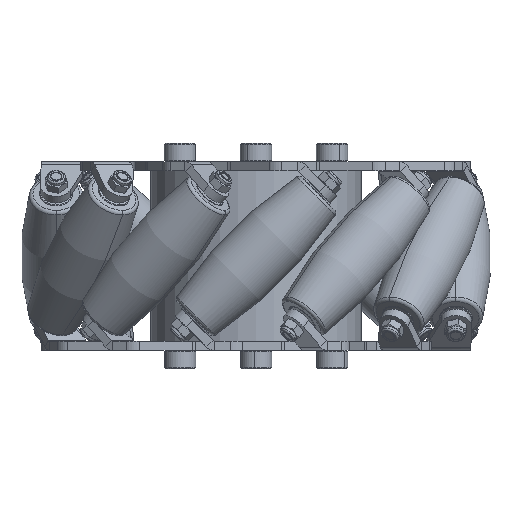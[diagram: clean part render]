
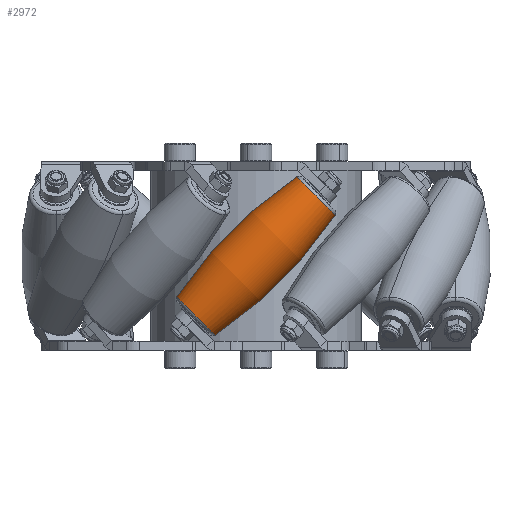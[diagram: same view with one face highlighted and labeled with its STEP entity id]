
A CAD part, left-side view. The second image highlights one B-rep face of the part: STEP entity #2972.
In plain terms, the highlighted toroidal (fillet/blend) face has major radius 110 mm and minor radius 119.5 mm.
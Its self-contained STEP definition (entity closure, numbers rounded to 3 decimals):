
#64 = DIRECTION ( 'NONE',  ( 0., 0., 1. ) ) ;
#653 = AXIS2_PLACEMENT_3D ( 'NONE', #6394, #6381, #6355 ) ;
#659 = CIRCLE ( 'NONE', #8284, 7.277 ) ;
#841 = EDGE_CURVE ( 'NONE', #10630, #1183, #9018, .T. ) ;
#1183 = VERTEX_POINT ( 'NONE', #2413 ) ;
#1528 = TOROIDAL_SURFACE ( 'NONE', #8598, -110., 119.5 ) ;
#1854 = AXIS2_PLACEMENT_3D ( 'NONE', #5911, #9200, #64 ) ;
#2056 = EDGE_CURVE ( 'NONE', #10943, #10630, #659, .T. ) ;
#2244 = ORIENTED_EDGE ( 'NONE', *, *, #2782, .T. ) ;
#2413 = CARTESIAN_POINT ( 'NONE',  ( -11.077, 54., -21.368 ) ) ;
#2782 = EDGE_CURVE ( 'NONE', #1183, #10466, #8663, .T. ) ;
#2972 = ADVANCED_FACE ( 'NONE', ( #8817 ), #1528, .T. ) ;
#3037 = EDGE_LOOP ( 'NONE', ( #9980, #11530, #2244, #10716 ) ) ;
#3834 = DIRECTION ( 'NONE',  ( -0.707, 0., 0.707 ) ) ;
#3930 = DIRECTION ( 'NONE',  ( -0.707, 0., -0.707 ) ) ;
#4151 = CARTESIAN_POINT ( 'NONE',  ( 0., 54., 0. ) ) ;
#5539 = CARTESIAN_POINT ( 'NONE',  ( 21.368, 54., 11.077 ) ) ;
#5911 = CARTESIAN_POINT ( 'NONE',  ( -77.782, 54., 77.782 ) ) ;
#6355 = DIRECTION ( 'NONE',  ( 0., 0., -1. ) ) ;
#6381 = DIRECTION ( 'NONE',  ( 0., -1., 0. ) ) ;
#6394 = CARTESIAN_POINT ( 'NONE',  ( 77.782, 54., -77.782 ) ) ;
#6992 = CARTESIAN_POINT ( 'NONE',  ( 11.077, 54., 21.368 ) ) ;
#7556 = EDGE_CURVE ( 'NONE', #10943, #10466, #8499, .T. ) ;
#8284 = AXIS2_PLACEMENT_3D ( 'NONE', #11437, #11295, #11258 ) ;
#8499 = CIRCLE ( 'NONE', #653, 119.5 ) ;
#8598 = AXIS2_PLACEMENT_3D ( 'NONE', #4151, #3930, #3834 ) ;
#8663 = CIRCLE ( 'NONE', #8852, 7.277 ) ;
#8817 = FACE_OUTER_BOUND ( 'NONE', #3037, .T. ) ;
#8840 = DIRECTION ( 'NONE',  ( 0.707, 0., -0.707 ) ) ;
#8852 = AXIS2_PLACEMENT_3D ( 'NONE', #8974, #8935, #8840 ) ;
#8935 = DIRECTION ( 'NONE',  ( 0.707, 0., 0.707 ) ) ;
#8974 = CARTESIAN_POINT ( 'NONE',  ( -16.222, 54., -16.222 ) ) ;
#9018 = CIRCLE ( 'NONE', #1854, 119.5 ) ;
#9200 = DIRECTION ( 'NONE',  ( 0., 1., 0. ) ) ;
#9980 = ORIENTED_EDGE ( 'NONE', *, *, #2056, .T. ) ;
#10466 = VERTEX_POINT ( 'NONE', #11846 ) ;
#10630 = VERTEX_POINT ( 'NONE', #5539 ) ;
#10716 = ORIENTED_EDGE ( 'NONE', *, *, #7556, .F. ) ;
#10943 = VERTEX_POINT ( 'NONE', #6992 ) ;
#11258 = DIRECTION ( 'NONE',  ( -0.707, 0., 0.707 ) ) ;
#11295 = DIRECTION ( 'NONE',  ( -0.707, 0., -0.707 ) ) ;
#11437 = CARTESIAN_POINT ( 'NONE',  ( 16.222, 54., 16.222 ) ) ;
#11530 = ORIENTED_EDGE ( 'NONE', *, *, #841, .T. ) ;
#11846 = CARTESIAN_POINT ( 'NONE',  ( -21.368, 54., -11.077 ) ) ;
